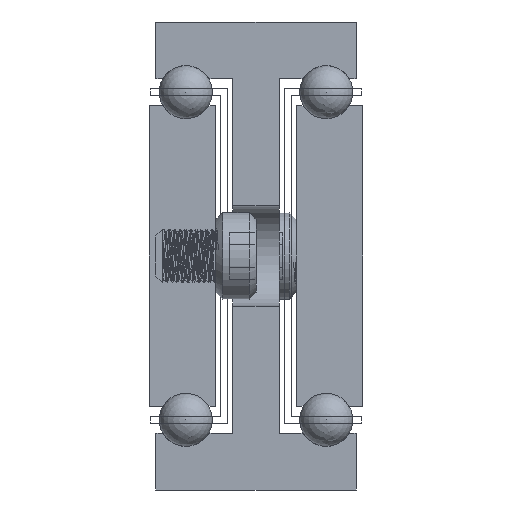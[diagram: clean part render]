
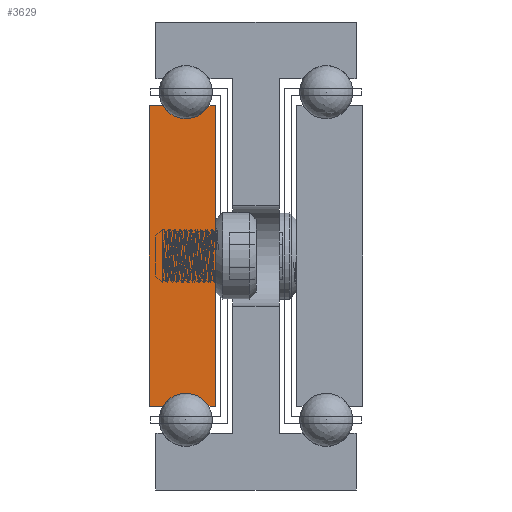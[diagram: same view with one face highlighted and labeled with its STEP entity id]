
A CAD part, front view. The second image highlights one B-rep face of the part: STEP entity #3629.
In plain terms, the highlighted planar face has unit normal (0, -1, 0).
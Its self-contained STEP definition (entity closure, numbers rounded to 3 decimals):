
#475=CIRCLE('',#3912,4.);
#477=CIRCLE('',#3918,4.);
#779=FACE_OUTER_BOUND('',#1005,.T.);
#1005=EDGE_LOOP('',(#2924,#2925,#2926,#2927,#2928,#2929,#2930,#2931));
#1378=LINE('',#5596,#1590);
#1381=LINE('',#5602,#1593);
#1385=LINE('',#5614,#1597);
#1388=LINE('',#5620,#1600);
#1391=LINE('',#5626,#1603);
#1395=LINE('',#5636,#1607);
#1590=VECTOR('',#4502,1.);
#1593=VECTOR('',#4507,1.);
#1597=VECTOR('',#4519,1.);
#1600=VECTOR('',#4524,1.);
#1603=VECTOR('',#4529,1.);
#1607=VECTOR('',#4541,1.);
#1810=VERTEX_POINT('',#5593);
#1811=VERTEX_POINT('',#5595);
#1813=VERTEX_POINT('',#5601);
#1815=VERTEX_POINT('',#5607);
#1817=VERTEX_POINT('',#5613);
#1819=VERTEX_POINT('',#5619);
#1821=VERTEX_POINT('',#5625);
#1823=VERTEX_POINT('',#5631);
#2292=EDGE_CURVE('',#1811,#1810,#1378,.T.);
#2295=EDGE_CURVE('',#1813,#1811,#1381,.T.);
#2298=EDGE_CURVE('',#1815,#1813,#475,.T.);
#2301=EDGE_CURVE('',#1817,#1815,#1385,.T.);
#2304=EDGE_CURVE('',#1819,#1817,#1388,.T.);
#2307=EDGE_CURVE('',#1821,#1819,#1391,.T.);
#2310=EDGE_CURVE('',#1823,#1821,#477,.T.);
#2313=EDGE_CURVE('',#1810,#1823,#1395,.T.);
#2924=ORIENTED_EDGE('',*,*,#2313,.T.);
#2925=ORIENTED_EDGE('',*,*,#2310,.T.);
#2926=ORIENTED_EDGE('',*,*,#2307,.T.);
#2927=ORIENTED_EDGE('',*,*,#2304,.T.);
#2928=ORIENTED_EDGE('',*,*,#2301,.T.);
#2929=ORIENTED_EDGE('',*,*,#2298,.T.);
#2930=ORIENTED_EDGE('',*,*,#2295,.T.);
#2931=ORIENTED_EDGE('',*,*,#2292,.T.);
#3527=PLANE('',#3921);
#3629=ADVANCED_FACE('',(#779),#3527,.T.);
#3912=AXIS2_PLACEMENT_3D('',#5608,#4513,#4514);
#3918=AXIS2_PLACEMENT_3D('',#5632,#4535,#4536);
#3921=AXIS2_PLACEMENT_3D('',#5638,#4544,#4545);
#4502=DIRECTION('',(0.,0.,-1.));
#4507=DIRECTION('',(-1.,0.,0.));
#4513=DIRECTION('center_axis',(0.,1.,0.));
#4514=DIRECTION('ref_axis',(-0.866,0.,-0.5));
#4519=DIRECTION('',(-1.,0.,0.));
#4524=DIRECTION('',(0.,0.,1.));
#4529=DIRECTION('',(1.,0.,0.));
#4535=DIRECTION('center_axis',(0.,1.,0.));
#4536=DIRECTION('ref_axis',(0.866,0.,0.5));
#4541=DIRECTION('',(1.,0.,0.));
#4544=DIRECTION('center_axis',(0.,-1.,0.));
#4545=DIRECTION('ref_axis',(1.,0.,0.));
#5593=CARTESIAN_POINT('',(-12371.261,-1555.905,727.5));
#5595=CARTESIAN_POINT('',(-12371.261,-1555.905,772.5));
#5596=CARTESIAN_POINT('',(-12371.261,-1555.905,727.5));
#5601=CARTESIAN_POINT('',(-12369.225,-1555.905,772.5));
#5602=CARTESIAN_POINT('',(-12371.261,-1555.905,772.5));
#5607=CARTESIAN_POINT('',(-12362.297,-1555.905,772.5));
#5608=CARTESIAN_POINT('Origin',(-12365.761,-1555.905,774.5));
#5613=CARTESIAN_POINT('',(-12361.261,-1555.905,772.5));
#5614=CARTESIAN_POINT('',(-12362.297,-1555.905,772.5));
#5619=CARTESIAN_POINT('',(-12361.261,-1555.905,727.5));
#5620=CARTESIAN_POINT('',(-12361.261,-1555.905,772.5));
#5625=CARTESIAN_POINT('',(-12362.297,-1555.905,727.5));
#5626=CARTESIAN_POINT('',(-12361.261,-1555.905,727.5));
#5631=CARTESIAN_POINT('',(-12369.225,-1555.905,727.5));
#5632=CARTESIAN_POINT('Origin',(-12365.761,-1555.905,725.5));
#5636=CARTESIAN_POINT('',(-12369.225,-1555.905,727.5));
#5638=CARTESIAN_POINT('Origin',(-12366.267,-1555.905,750.));
